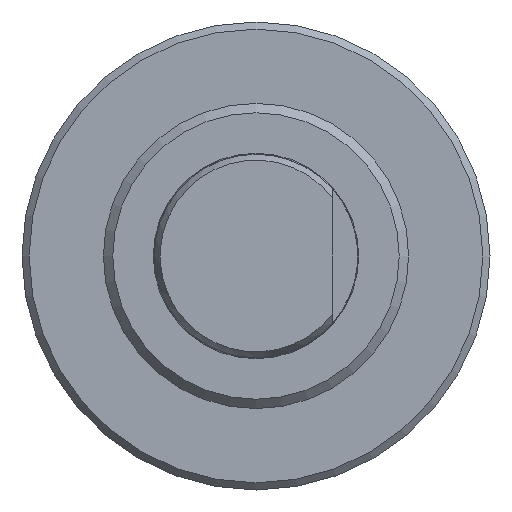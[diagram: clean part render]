
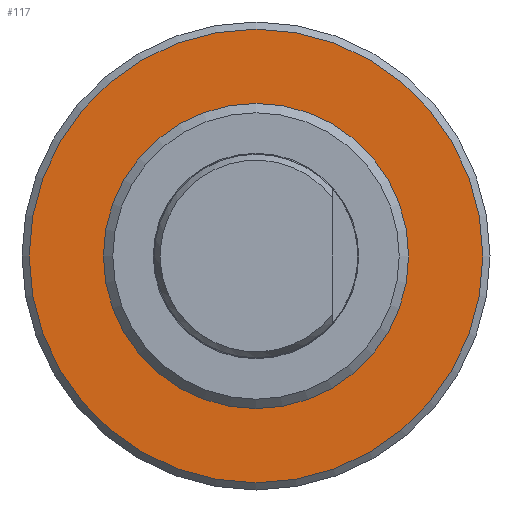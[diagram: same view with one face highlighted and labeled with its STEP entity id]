
A CAD part, left-side view. The second image highlights one B-rep face of the part: STEP entity #117.
In plain terms, the highlighted planar face has unit normal (-1, 0, 0).
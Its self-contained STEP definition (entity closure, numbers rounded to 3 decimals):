
#117 = ADVANCED_FACE( '', ( #262, #263 ), #264, .F. );
#262 = FACE_OUTER_BOUND( '', #421, .T. );
#263 = FACE_BOUND( '', #422, .T. );
#264 = PLANE( '', #423 );
#421 = EDGE_LOOP( '', ( #641 ) );
#422 = EDGE_LOOP( '', ( #642 ) );
#423 = AXIS2_PLACEMENT_3D( '', #643, #644, #645 );
#641 = ORIENTED_EDGE( '', *, *, #777, .F. );
#642 = ORIENTED_EDGE( '', *, *, #763, .T. );
#643 = CARTESIAN_POINT( '', ( 41., 15., 0. ) );
#644 = DIRECTION( '', ( 1., 0., 0. ) );
#645 = DIRECTION( '', ( 0., 0., -1. ) );
#763 = EDGE_CURVE( '', #876, #876, #877, .T. );
#777 = EDGE_CURVE( '', #896, #896, #897, .T. );
#876 = VERTEX_POINT( '', #1008 );
#877 = CIRCLE( '', #1009, 15. );
#896 = VERTEX_POINT( '', #1028 );
#897 = CIRCLE( '', #1029, 22.293 );
#1008 = CARTESIAN_POINT( '', ( 41., 0., -15. ) );
#1009 = AXIS2_PLACEMENT_3D( '', #1134, #1135, #1136 );
#1028 = CARTESIAN_POINT( '', ( 41., 0., -22.293 ) );
#1029 = AXIS2_PLACEMENT_3D( '', #1152, #1153, #1154 );
#1134 = CARTESIAN_POINT( '', ( 41., 0., 0. ) );
#1135 = DIRECTION( '', ( 1., 0., 0. ) );
#1136 = DIRECTION( '', ( 0., 0., -1. ) );
#1152 = CARTESIAN_POINT( '', ( 41., 0., 0. ) );
#1153 = DIRECTION( '', ( 1., 0., 0. ) );
#1154 = DIRECTION( '', ( 0., 0., -1. ) );
